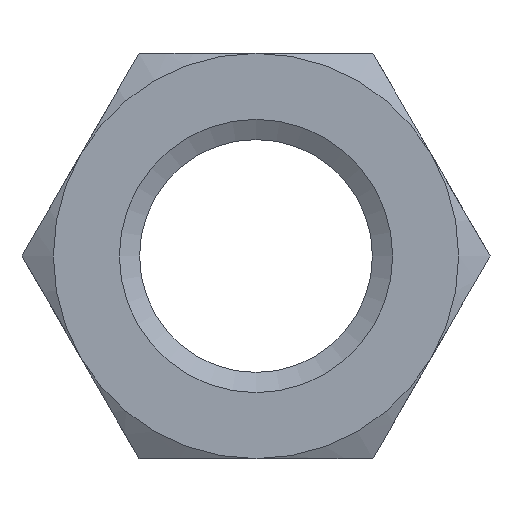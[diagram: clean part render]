
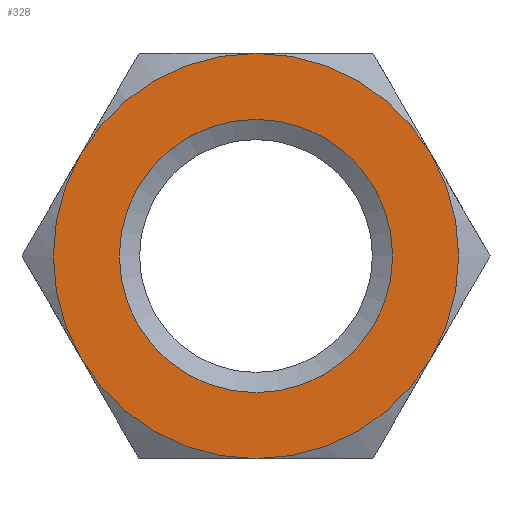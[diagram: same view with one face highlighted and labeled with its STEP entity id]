
A CAD part, left-side view. The second image highlights one B-rep face of the part: STEP entity #328.
In plain terms, the highlighted planar face has unit normal (-1, 0, 0).
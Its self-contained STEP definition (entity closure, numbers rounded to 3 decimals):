
#39=FACE_BOUND('',#76,.T.);
#41=PLANE('',#378);
#52=FACE_OUTER_BOUND('',#75,.T.);
#75=EDGE_LOOP('',(#221,#222,#223,#224,#225,#226));
#76=EDGE_LOOP('',(#227));
#116=CIRCLE('',#373,6.406);
#120=CIRCLE('',#379,9.5);
#121=CIRCLE('',#380,9.5);
#122=CIRCLE('',#381,9.5);
#123=CIRCLE('',#382,9.5);
#124=CIRCLE('',#383,9.5);
#125=CIRCLE('',#384,9.5);
#133=VERTEX_POINT('',#505);
#137=VERTEX_POINT('',#517);
#138=VERTEX_POINT('',#518);
#139=VERTEX_POINT('',#520);
#140=VERTEX_POINT('',#522);
#141=VERTEX_POINT('',#524);
#142=VERTEX_POINT('',#526);
#162=EDGE_CURVE('',#133,#133,#116,.T.);
#168=EDGE_CURVE('',#137,#138,#120,.T.);
#169=EDGE_CURVE('',#138,#139,#121,.T.);
#170=EDGE_CURVE('',#139,#140,#122,.T.);
#171=EDGE_CURVE('',#140,#141,#123,.T.);
#172=EDGE_CURVE('',#141,#142,#124,.T.);
#173=EDGE_CURVE('',#142,#137,#125,.T.);
#221=ORIENTED_EDGE('',*,*,#168,.T.);
#222=ORIENTED_EDGE('',*,*,#169,.T.);
#223=ORIENTED_EDGE('',*,*,#170,.T.);
#224=ORIENTED_EDGE('',*,*,#171,.T.);
#225=ORIENTED_EDGE('',*,*,#172,.T.);
#226=ORIENTED_EDGE('',*,*,#173,.T.);
#227=ORIENTED_EDGE('',*,*,#162,.F.);
#328=ADVANCED_FACE('',(#52,#39),#41,.F.);
#373=AXIS2_PLACEMENT_3D('',#506,#416,#417);
#378=AXIS2_PLACEMENT_3D('',#516,#428,#429);
#379=AXIS2_PLACEMENT_3D('',#519,#430,#431);
#380=AXIS2_PLACEMENT_3D('',#521,#432,#433);
#381=AXIS2_PLACEMENT_3D('',#523,#434,#435);
#382=AXIS2_PLACEMENT_3D('',#525,#436,#437);
#383=AXIS2_PLACEMENT_3D('',#527,#438,#439);
#384=AXIS2_PLACEMENT_3D('',#528,#440,#441);
#416=DIRECTION('center_axis',(-1.,0.,0.));
#417=DIRECTION('ref_axis',(0.,0.,-1.));
#428=DIRECTION('center_axis',(1.,0.,0.));
#429=DIRECTION('ref_axis',(0.,0.,-1.));
#430=DIRECTION('center_axis',(-1.,0.,0.));
#431=DIRECTION('ref_axis',(0.,1.,0.));
#432=DIRECTION('center_axis',(-1.,0.,0.));
#433=DIRECTION('ref_axis',(0.,1.,0.));
#434=DIRECTION('center_axis',(-1.,0.,0.));
#435=DIRECTION('ref_axis',(0.,1.,0.));
#436=DIRECTION('center_axis',(-1.,0.,0.));
#437=DIRECTION('ref_axis',(0.,1.,0.));
#438=DIRECTION('center_axis',(-1.,0.,0.));
#439=DIRECTION('ref_axis',(0.,1.,0.));
#440=DIRECTION('center_axis',(-1.,0.,0.));
#441=DIRECTION('ref_axis',(0.,1.,0.));
#505=CARTESIAN_POINT('',(0.,0.,6.406));
#506=CARTESIAN_POINT('Origin',(0.,0.,0.));
#516=CARTESIAN_POINT('Origin',(0.,0.,0.));
#517=CARTESIAN_POINT('',(0.,-8.227,-4.75));
#518=CARTESIAN_POINT('',(0.,-8.227,4.75));
#519=CARTESIAN_POINT('Origin',(0.,0.,0.));
#520=CARTESIAN_POINT('',(0.,0.,9.5));
#521=CARTESIAN_POINT('Origin',(0.,0.,0.));
#522=CARTESIAN_POINT('',(0.,8.227,4.75));
#523=CARTESIAN_POINT('Origin',(0.,0.,0.));
#524=CARTESIAN_POINT('',(0.,8.227,-4.75));
#525=CARTESIAN_POINT('Origin',(0.,0.,0.));
#526=CARTESIAN_POINT('',(0.,0.,-9.5));
#527=CARTESIAN_POINT('Origin',(0.,0.,0.));
#528=CARTESIAN_POINT('Origin',(0.,0.,0.));
